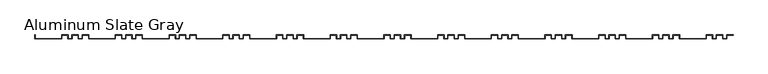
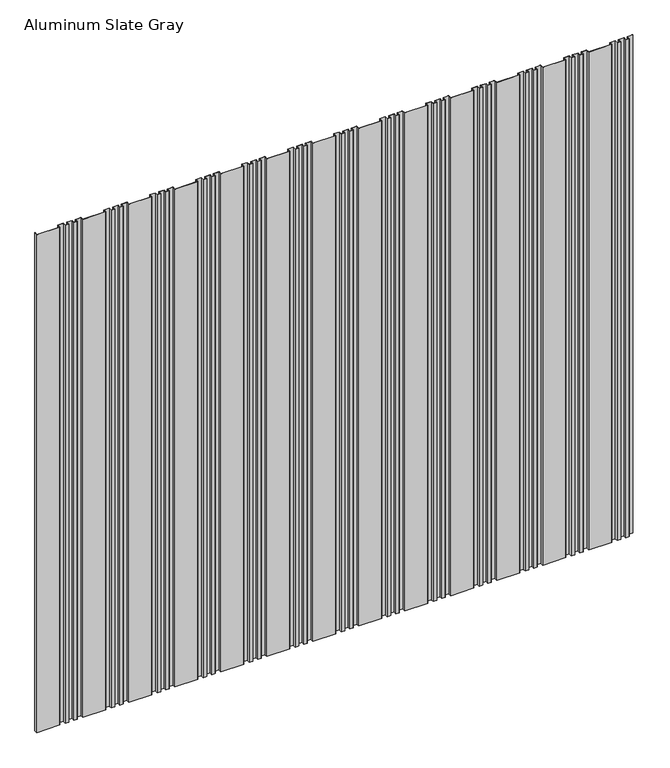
"""IFC4 building model written with IfcOpenShell, lengths in millimetres: proxy geometry, TitanTek VariPanel™ 3 Rib : Aluminum Slate Gray."""

from ifc_helpers import new_model, si_unit, origin, origin_with_axes, place, context, project, spatial, polyline, outline, extrude, source, transform, mapped, element, save


def aluminum_slate_gray_e1f096ed(model_context):
    return source(origin(), model_context, "Body", "SweptSolid", [
        extrude(outline(polyline([(4498.975, -0.9921875), (4498.975, -25.4), (4472.5828125, -25.4), (4472.5828125, -0.9921875), (4432.3, -0.9921875), (4432.3, -25.4), (4405.9078125, -25.4), (4405.9078125, -0.9921875), (4365.625, -0.9921875), (4365.625, -25.4), (4191.0, -25.4), (4191.0, 0.0), (4191.9921875, 0.0), (4191.9921875, -24.4078125), (4364.6328125, -24.4078125), (4364.6328125, 0.0), (4406.9, 0.0), (4406.9, -24.4078125), (4431.3078125, -24.4078125), (4431.3078125, 0.0), (4473.575, 0.0), (4473.575, -24.4078125), (4497.9828125, -24.4078125), (4497.9828125, 0.0), (4540.25, 0.0), (4540.25, -0.9921875), (4498.975, -0.9921875)])), origin_with_axes(), (0.0, 0.0, 1.0), 4000.0),
        extrude(outline(polyline([(4149.725, -0.9921875), (4149.725, -25.4), (4123.3328125, -25.4), (4123.3328125, -0.9921875), (4083.05, -0.9921875), (4083.05, -25.4), (4056.6578125, -25.4), (4056.6578125, -0.9921875), (4016.375, -0.9921875), (4016.375, -25.4), (3841.75, -25.4), (3841.75, 0.0), (3842.7421875, 0.0), (3842.7421875, -24.4078125), (4015.3828125, -24.4078125), (4015.3828125, 0.0), (4057.65, 0.0), (4057.65, -24.4078125), (4082.0578125, -24.4078125), (4082.0578125, 0.0), (4124.325, 0.0), (4124.325, -24.4078125), (4148.7328125, -24.4078125), (4148.7328125, 0.0), (4191.0, 0.0), (4191.0, -0.9921875), (4149.725, -0.9921875)])), origin_with_axes(), (0.0, 0.0, 1.0), 4000.0),
        extrude(outline(polyline([(3800.475, -0.9921875), (3800.475, -25.4), (3774.0828125, -25.4), (3774.0828125, -0.9921875), (3733.8, -0.9921875), (3733.8, -25.4), (3707.4078125, -25.4), (3707.4078125, -0.9921875), (3667.125, -0.9921875), (3667.125, -25.4), (3492.5, -25.4), (3492.5, 0.0), (3493.4921875, 0.0), (3493.4921875, -24.4078125), (3666.1328125, -24.4078125), (3666.1328125, 0.0), (3708.4, 0.0), (3708.4, -24.4078125), (3732.8078125, -24.4078125), (3732.8078125, 0.0), (3775.075, 0.0), (3775.075, -24.4078125), (3799.4828125, -24.4078125), (3799.4828125, 0.0), (3841.75, 0.0), (3841.75, -0.9921875), (3800.475, -0.9921875)])), origin_with_axes(), (0.0, 0.0, 1.0), 4000.0),
        extrude(outline(polyline([(3451.225, -0.9921875), (3451.225, -25.4), (3424.8328125, -25.4), (3424.8328125, -0.9921875), (3384.55, -0.9921875), (3384.55, -25.4), (3358.1578125, -25.4), (3358.1578125, -0.9921875), (3317.875, -0.9921875), (3317.875, -25.4), (3143.25, -25.4), (3143.25, 0.0), (3144.2421875, 0.0), (3144.2421875, -24.4078125), (3316.8828125, -24.4078125), (3316.8828125, 0.0), (3359.15, 0.0), (3359.15, -24.4078125), (3383.5578125, -24.4078125), (3383.5578125, 0.0), (3425.825, 0.0), (3425.825, -24.4078125), (3450.2328125, -24.4078125), (3450.2328125, 0.0), (3492.5, 0.0), (3492.5, -0.9921875), (3451.225, -0.9921875)])), origin_with_axes(), (0.0, 0.0, 1.0), 4000.0),
        extrude(outline(polyline([(3101.975, -0.9921875), (3101.975, -25.4), (3075.5828125, -25.4), (3075.5828125, -0.9921875), (3035.3, -0.9921875), (3035.3, -25.4), (3008.9078125, -25.4), (3008.9078125, -0.9921875), (2968.625, -0.9921875), (2968.625, -25.4), (2794.0, -25.4), (2794.0, 0.0), (2794.9921875, 0.0), (2794.9921875, -24.4078125), (2967.6328125, -24.4078125), (2967.6328125, 0.0), (3009.9, 0.0), (3009.9, -24.4078125), (3034.3078125, -24.4078125), (3034.3078125, 0.0), (3076.575, 0.0), (3076.575, -24.4078125), (3100.9828125, -24.4078125), (3100.9828125, 0.0), (3143.25, 0.0), (3143.25, -0.9921875), (3101.975, -0.9921875)])), origin_with_axes(), (0.0, 0.0, 1.0), 4000.0),
        extrude(outline(polyline([(2752.725, -0.9921875), (2752.725, -25.4), (2726.3328125, -25.4), (2726.3328125, -0.9921875), (2686.05, -0.9921875), (2686.05, -25.4), (2659.6578125, -25.4), (2659.6578125, -0.9921875), (2619.375, -0.9921875), (2619.375, -25.4), (2444.75, -25.4), (2444.75, 0.0), (2445.7421875, 0.0), (2445.7421875, -24.4078125), (2618.3828125, -24.4078125), (2618.3828125, 0.0), (2660.65, 0.0), (2660.65, -24.4078125), (2685.0578125, -24.4078125), (2685.0578125, 0.0), (2727.325, 0.0), (2727.325, -24.4078125), (2751.7328125, -24.4078125), (2751.7328125, 0.0), (2794.0, 0.0), (2794.0, -0.9921875), (2752.725, -0.9921875)])), origin_with_axes(), (0.0, 0.0, 1.0), 4000.0),
        extrude(outline(polyline([(2403.475, -0.9921875), (2403.475, -25.4), (2377.0828125, -25.4), (2377.0828125, -0.9921875), (2336.8, -0.9921875), (2336.8, -25.4), (2310.4078125, -25.4), (2310.4078125, -0.9921875), (2270.125, -0.9921875), (2270.125, -25.4), (2095.5, -25.4), (2095.5, 0.0), (2096.4921875, 0.0), (2096.4921875, -24.4078125), (2269.1328125, -24.4078125), (2269.1328125, 0.0), (2311.4, 0.0), (2311.4, -24.4078125), (2335.8078125, -24.4078125), (2335.8078125, 0.0), (2378.075, 0.0), (2378.075, -24.4078125), (2402.4828125, -24.4078125), (2402.4828125, 0.0), (2444.75, 0.0), (2444.75, -0.9921875), (2403.475, -0.9921875)])), origin_with_axes(), (0.0, 0.0, 1.0), 4000.0),
        extrude(outline(polyline([(2054.225, -0.9921875), (2054.225, -25.4), (2027.8328125, -25.4), (2027.8328125, -0.9921875), (1987.55, -0.9921875), (1987.55, -25.4), (1961.1578125, -25.4), (1961.1578125, -0.9921875), (1920.875, -0.9921875), (1920.875, -25.4), (1746.25, -25.4), (1746.25, 0.0), (1747.2421875, 0.0), (1747.2421875, -24.4078125), (1919.8828125, -24.4078125), (1919.8828125, 0.0), (1962.15, 0.0), (1962.15, -24.4078125), (1986.5578125, -24.4078125), (1986.5578125, 0.0), (2028.825, 0.0), (2028.825, -24.4078125), (2053.2328125, -24.4078125), (2053.2328125, 0.0), (2095.5, 0.0), (2095.5, -0.9921875), (2054.225, -0.9921875)])), origin_with_axes(), (0.0, 0.0, 1.0), 4000.0),
        extrude(outline(polyline([(1704.975, -0.9921875), (1704.975, -25.4), (1678.5828125, -25.4), (1678.5828125, -0.9921875), (1638.3, -0.9921875), (1638.3, -25.4), (1611.9078125, -25.4), (1611.9078125, -0.9921875), (1571.625, -0.9921875), (1571.625, -25.4), (1397.0, -25.4), (1397.0, 0.0), (1397.9921875, 0.0), (1397.9921875, -24.4078125), (1570.6328125, -24.4078125), (1570.6328125, 0.0), (1612.9, 0.0), (1612.9, -24.4078125), (1637.3078125, -24.4078125), (1637.3078125, 0.0), (1679.575, 0.0), (1679.575, -24.4078125), (1703.9828125, -24.4078125), (1703.9828125, 0.0), (1746.25, 0.0), (1746.25, -0.9921875), (1704.975, -0.9921875)])), origin_with_axes(), (0.0, 0.0, 1.0), 4000.0),
        extrude(outline(polyline([(1355.725, -0.9921875), (1355.725, -25.4), (1329.3328125, -25.4), (1329.3328125, -0.9921875), (1289.05, -0.9921875), (1289.05, -25.4), (1262.6578125, -25.4), (1262.6578125, -0.9921875), (1222.375, -0.9921875), (1222.375, -25.4), (1047.75, -25.4), (1047.75, 0.0), (1048.7421875, 0.0), (1048.7421875, -24.4078125), (1221.3828125, -24.4078125), (1221.3828125, 0.0), (1263.65, 0.0), (1263.65, -24.4078125), (1288.0578125, -24.4078125), (1288.0578125, 0.0), (1330.325, 0.0), (1330.325, -24.4078125), (1354.7328125, -24.4078125), (1354.7328125, 0.0), (1397.0, 0.0), (1397.0, -0.9921875), (1355.725, -0.9921875)])), origin_with_axes(), (0.0, 0.0, 1.0), 4000.0),
        extrude(outline(polyline([(1006.475, -0.9921875), (1006.475, -25.4), (980.0828125, -25.4), (980.0828125, -0.9921875), (939.8, -0.9921875), (939.8, -25.4), (913.4078125, -25.4), (913.4078125, -0.9921875), (873.125, -0.9921875), (873.125, -25.4), (698.5, -25.4), (698.5, 0.0), (699.4921875, 0.0), (699.4921875, -24.4078125), (872.1328125, -24.4078125), (872.1328125, 0.0), (914.4, 0.0), (914.4, -24.4078125), (938.8078125, -24.4078125), (938.8078125, 0.0), (981.075, 0.0), (981.075, -24.4078125), (1005.4828125, -24.4078125), (1005.4828125, 0.0), (1047.75, 0.0), (1047.75, -0.9921875), (1006.475, -0.9921875)])), origin_with_axes(), (0.0, 0.0, 1.0), 4000.0),
        extrude(outline(polyline([(657.225, -0.9921875), (657.225, -25.4), (630.8328125, -25.4), (630.8328125, -0.9921875), (590.55, -0.9921875), (590.55, -25.4), (564.1578125, -25.4), (564.1578125, -0.9921875), (523.875, -0.9921875), (523.875, -25.4), (349.25, -25.4), (349.25, 0.0), (350.2421875, 0.0), (350.2421875, -24.4078125), (522.8828125, -24.4078125), (522.8828125, 0.0), (565.15, 0.0), (565.15, -24.4078125), (589.5578125, -24.4078125), (589.5578125, 0.0), (631.825, 0.0), (631.825, -24.4078125), (656.2328125, -24.4078125), (656.2328125, 0.0), (698.5, 0.0), (698.5, -0.9921875), (657.225, -0.9921875)])), origin_with_axes(), (0.0, 0.0, 1.0), 4000.0),
        extrude(outline(polyline([(307.975, -0.9921875), (307.975, -25.4), (281.5828125, -25.4), (281.5828125, -0.9921875), (241.3, -0.9921875), (241.3, -25.4), (214.9078125, -25.4), (214.9078125, -0.9921875), (174.625, -0.9921875), (174.625, -25.4), (0.0, -25.4), (0.0, 0.0), (0.9921875, 0.0), (0.9921875, -24.4078125), (173.6328125, -24.4078125), (173.6328125, 0.0), (215.9, 0.0), (215.9, -24.4078125), (240.3078125, -24.4078125), (240.3078125, 0.0), (282.575, 0.0), (282.575, -24.4078125), (306.9828125, -24.4078125), (306.9828125, 0.0), (349.25, 0.0), (349.25, -0.9921875), (307.975, -0.9921875)])), origin_with_axes(), (0.0, 0.0, 1.0), 4000.0),
    ])


if __name__ == "__main__":
    model = new_model("IFC4")
    model_context = context("Model", 3, world=origin())
    ifc_project = project(units=[si_unit("LENGTHUNIT", "METRE", prefix="MILLI")], contexts=[model_context])
    site = spatial("IfcSite", under=ifc_project)
    building = spatial("IfcBuilding", under=site)
    placement = place(None, origin())
    aluminum_slate_gray_shape = aluminum_slate_gray_e1f096ed(model_context)
    element("IfcBuildingElementProxy", 1, Name="TitanTek VariPanel™ 3 Rib : Aluminum Slate Gray", ObjectType="TitanTek VariPanel™ 3 Rib : Aluminum Slate Gray", at=placement, inside=building, context=model_context, shape_type="MappedRepresentation", body=[
        mapped(aluminum_slate_gray_shape, transform((0.0, 0.0, 0.0), x_axis=(1.0, 0.0, 0.0), y_axis=(0.0, 1.0, 0.0), z_axis=(0.0, 0.0, 1.0))),
    ])
    save(model, "model.ifc")
